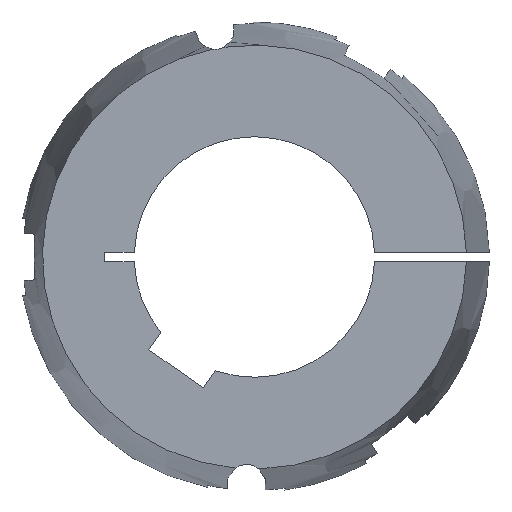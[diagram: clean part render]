
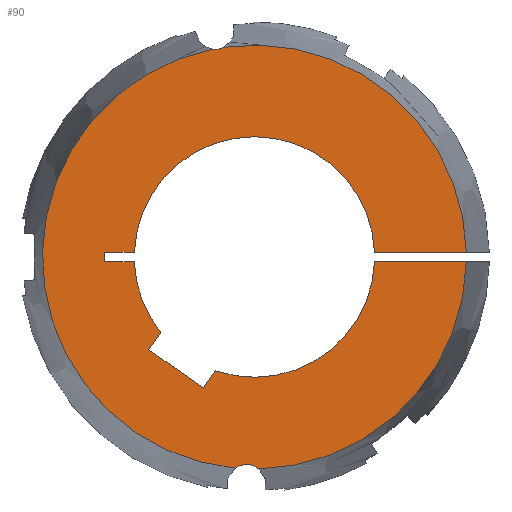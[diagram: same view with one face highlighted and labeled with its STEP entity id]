
A CAD part, left-side view. The second image highlights one B-rep face of the part: STEP entity #90.
In plain terms, the highlighted planar face has unit normal (-1, 0, 0).
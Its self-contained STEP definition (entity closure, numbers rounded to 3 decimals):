
#90 = ADVANCED_FACE( '', ( #140 ), #141, .F. );
#140 = FACE_OUTER_BOUND( '', #208, .T. );
#141 = PLANE( '', #209 );
#208 = EDGE_LOOP( '', ( #369, #370, #371, #372, #373, #374, #375, #376, #377, #378, #379, #380, #381, #382, #383, #384 ) );
#209 = AXIS2_PLACEMENT_3D( '', #385, #386, #387 );
#369 = ORIENTED_EDGE( '', *, *, #548, .F. );
#370 = ORIENTED_EDGE( '', *, *, #601, .F. );
#371 = ORIENTED_EDGE( '', *, *, #570, .T. );
#372 = ORIENTED_EDGE( '', *, *, #583, .T. );
#373 = ORIENTED_EDGE( '', *, *, #581, .T. );
#374 = ORIENTED_EDGE( '', *, *, #578, .T. );
#375 = ORIENTED_EDGE( '', *, *, #587, .T. );
#376 = ORIENTED_EDGE( '', *, *, #602, .T. );
#377 = ORIENTED_EDGE( '', *, *, #603, .T. );
#378 = ORIENTED_EDGE( '', *, *, #604, .T. );
#379 = ORIENTED_EDGE( '', *, *, #605, .T. );
#380 = ORIENTED_EDGE( '', *, *, #606, .T. );
#381 = ORIENTED_EDGE( '', *, *, #572, .T. );
#382 = ORIENTED_EDGE( '', *, *, #607, .F. );
#383 = ORIENTED_EDGE( '', *, *, #551, .F. );
#384 = ORIENTED_EDGE( '', *, *, #608, .F. );
#385 = CARTESIAN_POINT( '', ( -89., 0., 0. ) );
#386 = DIRECTION( '', ( 1., 0., 0. ) );
#387 = DIRECTION( '', ( 0., 1., 0. ) );
#548 = EDGE_CURVE( '', #649, #651, #652, .F. );
#551 = EDGE_CURVE( '', #655, #657, #658, .F. );
#570 = EDGE_CURVE( '', #693, #691, #694, .T. );
#572 = EDGE_CURVE( '', #696, #697, #698, .T. );
#578 = EDGE_CURVE( '', #709, #707, #710, .T. );
#581 = EDGE_CURVE( '', #714, #709, #715, .T. );
#583 = EDGE_CURVE( '', #691, #714, #717, .T. );
#587 = EDGE_CURVE( '', #707, #721, #723, .T. );
#601 = EDGE_CURVE( '', #693, #649, #745, .T. );
#602 = EDGE_CURVE( '', #721, #746, #747, .T. );
#603 = EDGE_CURVE( '', #746, #748, #749, .T. );
#604 = EDGE_CURVE( '', #748, #750, #751, .T. );
#605 = EDGE_CURVE( '', #750, #752, #753, .T. );
#606 = EDGE_CURVE( '', #752, #696, #754, .T. );
#607 = EDGE_CURVE( '', #657, #697, #755, .T. );
#608 = EDGE_CURVE( '', #651, #655, #756, .T. );
#649 = VERTEX_POINT( '', #815 );
#651 = VERTEX_POINT( '', #828 );
#652 = CIRCLE( '', #829, 5.25 );
#655 = VERTEX_POINT( '', #843 );
#657 = VERTEX_POINT( '', #861 );
#658 = CIRCLE( '', #862, 5.25 );
#691 = VERTEX_POINT( '', #935 );
#693 = VERTEX_POINT( '', #938 );
#694 = LINE( '', #939, #940 );
#696 = VERTEX_POINT( '', #948 );
#697 = VERTEX_POINT( '', #949 );
#698 = LINE( '', #950, #951 );
#707 = VERTEX_POINT( '', #969 );
#709 = VERTEX_POINT( '', #972 );
#710 = LINE( '', #973, #974 );
#714 = VERTEX_POINT( '', #980 );
#715 = LINE( '', #981, #982 );
#717 = CIRCLE( '', #985, 32.5 );
#721 = VERTEX_POINT( '', #990 );
#723 = LINE( '', #993, #994 );
#745 = CIRCLE( '', #1019, 57.277 );
#746 = VERTEX_POINT( '', #1020 );
#747 = CIRCLE( '', #1021, 32.5 );
#748 = VERTEX_POINT( '', #1022 );
#749 = LINE( '', #1023, #1024 );
#750 = VERTEX_POINT( '', #1025 );
#751 = LINE( '', #1026, #1027 );
#752 = VERTEX_POINT( '', #1028 );
#753 = LINE( '', #1029, #1030 );
#754 = CIRCLE( '', #1031, 32.5 );
#755 = CIRCLE( '', #1032, 57.277 );
#756 = CIRCLE( '', #1033, 57.277 );
#815 = CARTESIAN_POINT( '', ( -89., -1.169, -57.265 ) );
#828 = CARTESIAN_POINT( '', ( -89., 5.158, -57.044 ) );
#829 = AXIS2_PLACEMENT_3D( '', #1193, #1194, #1195 );
#843 = CARTESIAN_POINT( '', ( -89., 11.362, 56.138 ) );
#861 = CARTESIAN_POINT( '', ( -89., 8.229, 56.682 ) );
#862 = AXIS2_PLACEMENT_3D( '', #1196, #1197, #1198 );
#935 = CARTESIAN_POINT( '', ( -89., -32.476, -1.25 ) );
#938 = CARTESIAN_POINT( '', ( -89., -57.263, -1.25 ) );
#939 = CARTESIAN_POINT( '', ( -89., -63.5, -1.25 ) );
#940 = VECTOR( '', #1228, 1000. );
#948 = CARTESIAN_POINT( '', ( -89., -32.476, 1.25 ) );
#949 = CARTESIAN_POINT( '', ( -89., -57.263, 1.25 ) );
#950 = CARTESIAN_POINT( '', ( -89., 0., 1.25 ) );
#951 = VECTOR( '', #1229, 1000. );
#969 = CARTESIAN_POINT( '', ( -89., 28.537, -25.065 ) );
#972 = CARTESIAN_POINT( '', ( -89., 13.793, -35.389 ) );
#973 = CARTESIAN_POINT( '', ( -89., 13.793, -35.389 ) );
#974 = VECTOR( '', #1234, 1000. );
#980 = CARTESIAN_POINT( '', ( -89., 10.54, -30.743 ) );
#981 = CARTESIAN_POINT( '', ( -89., 10.54, -30.743 ) );
#982 = VECTOR( '', #1237, 1000. );
#985 = AXIS2_PLACEMENT_3D( '', #1239, #1240, #1241 );
#990 = CARTESIAN_POINT( '', ( -89., 25.285, -20.419 ) );
#993 = CARTESIAN_POINT( '', ( -89., 28.537, -25.065 ) );
#994 = VECTOR( '', #1247, 1000. );
#1019 = AXIS2_PLACEMENT_3D( '', #1281, #1282, #1283 );
#1020 = CARTESIAN_POINT( '', ( -89., 32.476, -1.25 ) );
#1021 = AXIS2_PLACEMENT_3D( '', #1284, #1285, #1286 );
#1022 = CARTESIAN_POINT( '', ( -89., 40.5, -1.25 ) );
#1023 = CARTESIAN_POINT( '', ( -89., 0., -1.25 ) );
#1024 = VECTOR( '', #1287, 1000. );
#1025 = CARTESIAN_POINT( '', ( -89., 40.5, 1.25 ) );
#1026 = CARTESIAN_POINT( '', ( -89., 40.5, -1.25 ) );
#1027 = VECTOR( '', #1288, 1000. );
#1028 = CARTESIAN_POINT( '', ( -89., 32.476, 1.25 ) );
#1029 = CARTESIAN_POINT( '', ( -89., 40.5, 1.25 ) );
#1030 = VECTOR( '', #1289, 1000. );
#1031 = AXIS2_PLACEMENT_3D( '', #1290, #1291, #1292 );
#1032 = AXIS2_PLACEMENT_3D( '', #1293, #1294, #1295 );
#1033 = AXIS2_PLACEMENT_3D( '', #1296, #1297, #1298 );
#1193 = CARTESIAN_POINT( '', ( -89., 2.141, -61.34 ) );
#1194 = DIRECTION( '', ( 1., 0., 0. ) );
#1195 = DIRECTION( '', ( 0., 1., 0. ) );
#1196 = CARTESIAN_POINT( '', ( -89., 10.652, 61.34 ) );
#1197 = DIRECTION( '', ( 1., 0., 0. ) );
#1198 = DIRECTION( '', ( 0., 1., 0. ) );
#1228 = DIRECTION( '', ( 0., 1., 0. ) );
#1229 = DIRECTION( '', ( 0., -1., 0. ) );
#1234 = DIRECTION( '', ( 0., 0.819, 0.574 ) );
#1237 = DIRECTION( '', ( 0., 0.574, -0.819 ) );
#1239 = CARTESIAN_POINT( '', ( -89., 0., 0. ) );
#1240 = DIRECTION( '', ( 1., 0., 0. ) );
#1241 = DIRECTION( '', ( 0., 0., -1. ) );
#1247 = DIRECTION( '', ( 0., -0.574, 0.819 ) );
#1281 = CARTESIAN_POINT( '', ( -89., 0., 0. ) );
#1282 = DIRECTION( '', ( 1., 0., 0. ) );
#1283 = DIRECTION( '', ( 0., 1., 0. ) );
#1284 = CARTESIAN_POINT( '', ( -89., 0., 0. ) );
#1285 = DIRECTION( '', ( 1., 0., 0. ) );
#1286 = DIRECTION( '', ( 0., 0., -1. ) );
#1287 = DIRECTION( '', ( 0., 1., 0. ) );
#1288 = DIRECTION( '', ( 0., 0., 1. ) );
#1289 = DIRECTION( '', ( 0., -1., 0. ) );
#1290 = CARTESIAN_POINT( '', ( -89., 0., 0. ) );
#1291 = DIRECTION( '', ( 1., 0., 0. ) );
#1292 = DIRECTION( '', ( 0., 0., -1. ) );
#1293 = CARTESIAN_POINT( '', ( -89., 0., 0. ) );
#1294 = DIRECTION( '', ( 1., 0., 0. ) );
#1295 = DIRECTION( '', ( 0., 1., 0. ) );
#1296 = CARTESIAN_POINT( '', ( -89., 0., 0. ) );
#1297 = DIRECTION( '', ( 1., 0., 0. ) );
#1298 = DIRECTION( '', ( 0., 1., 0. ) );
